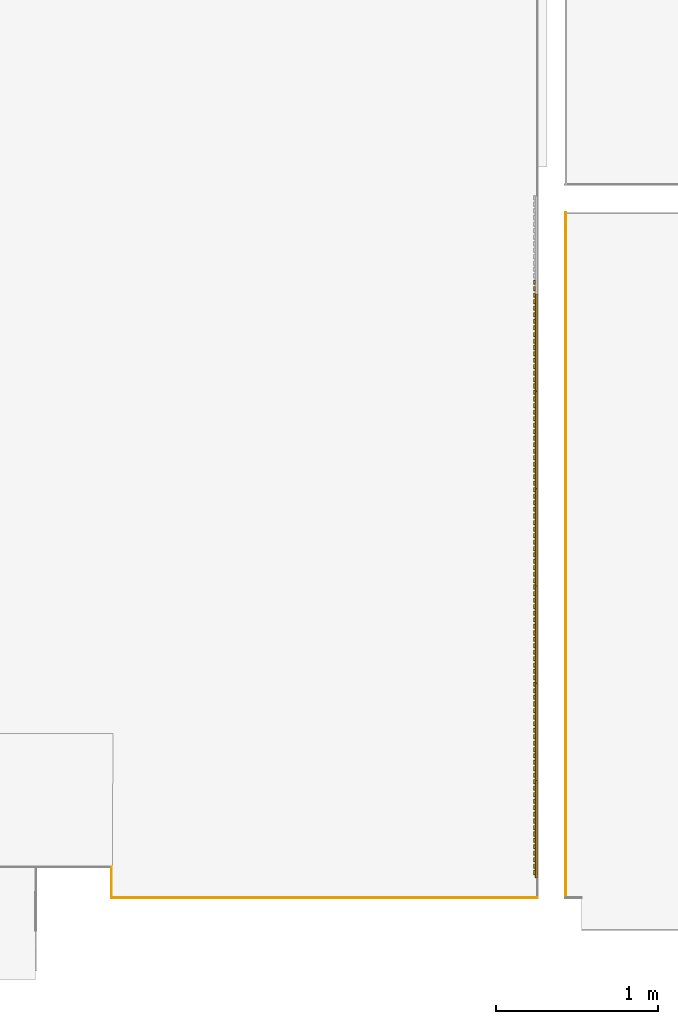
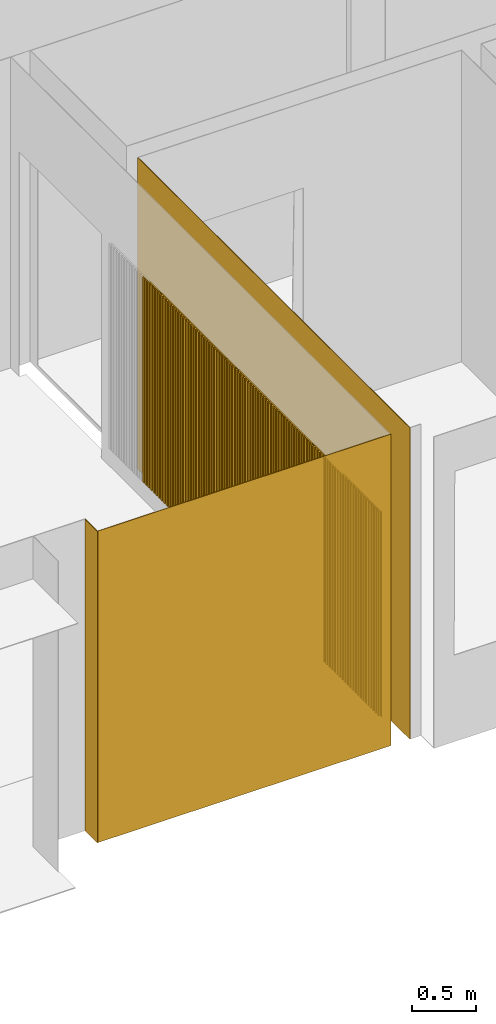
# One storey, part 3 of 33: 101 coverings.
"""IFC2X3 building model written with IfcOpenShell, lengths in millimetres."""

from ifc_helpers import new_model, entity, si_unit, converted_unit, derived_unit, money_unit, direction, frame, origin_with_axes, place, context, subcontext, project, spatial, polyline, outline, extrude, faceted_brep, source, transform, mapped, material, type_object, element, save


model = new_model("IFC2X3")

# Units and contexts
model_context = context("Model", 3, precision=0.01, world=origin_with_axes(), true_north=direction((0.0, 1.0)))
body_context = subcontext(model_context, "Body", "Model", "MODEL_VIEW")
ifc_project = project(units=[si_unit("LENGTHUNIT", "METRE", prefix="MILLI"), si_unit("AREAUNIT", "SQUARE_METRE"), si_unit("VOLUMEUNIT", "CUBIC_METRE"), converted_unit("PLANEANGLEUNIT", "DEGREE", entity("IfcPlaneAngleMeasure", 0.0174532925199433), si_unit("PLANEANGLEUNIT", "RADIAN"), dimensions=[0, 0, 0, 0, 0, 0, 0]), money_unit("EUR"), converted_unit("TIMEUNIT", "Year", entity("IfcTimeMeasure", 31556926.0), si_unit("TIMEUNIT", "SECOND"), dimensions=[0, 0, 1, 0, 0, 0, 0]), si_unit("MASSUNIT", "GRAM", prefix="KILO"), si_unit("THERMODYNAMICTEMPERATUREUNIT", "DEGREE_CELSIUS"), si_unit("LUMINOUSINTENSITYUNIT", "LUMEN"), si_unit("ENERGYUNIT", "JOULE", prefix="MEGA"), derived_unit("THERMALCONDUCTANCEUNIT", [(si_unit("POWERUNIT", "WATT"), 1), (si_unit("LENGTHUNIT", "METRE"), -1), (si_unit("THERMODYNAMICTEMPERATUREUNIT", "KELVIN"), -1)]), derived_unit("SPECIFICHEATCAPACITYUNIT", [(si_unit("ENERGYUNIT", "JOULE"), 1), (si_unit("MASSUNIT", "GRAM", prefix="KILO"), -1), (si_unit("THERMODYNAMICTEMPERATUREUNIT", "KELVIN"), -1)]), derived_unit("MASSDENSITYUNIT", [(si_unit("MASSUNIT", "GRAM", prefix="KILO"), 1), (si_unit("VOLUMEUNIT", "CUBIC_METRE"), -1)])], contexts=[model_context])

# Site, building, storey
site_placement = place(None, origin_with_axes())
site = spatial("IfcSite", under=ifc_project, at=site_placement, Name="Paldiski mnt 245/1, Tallinn, Harjumaa", CompositionType="COMPLEX")
building_placement = place(site_placement, origin_with_axes())
building = spatial("IfcBuilding", under=site, at=building_placement, Name="RKAS Hoone üldnimetus (kasutust iseloomustav) -> IFC Project Manager -> SOLIBRI", CompositionType="ELEMENT")
storey_placement = place(building_placement, origin_with_axes())
storey = spatial("IfcBuildingStorey", under=building, at=storey_placement, Name="Esimene korrus", CompositionType="ELEMENT", Elevation=0.0)

# Coverings
ifc_material_1 = material(Name="GENERIC - PREFABRICATED")
covering_type_1 = type_object("IfcCoveringType", Name="GENERIC - PREFABRICATED", PredefinedType="CLADDING")
shared_shape_1 = source(origin_with_axes(), body_context, "Body", "Brep", [
    faceted_brep([(0.0, 0.9999999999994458, 0.0), (0.0, -24.00000000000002, 0.0), (0.0, -24.00000000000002, 1940.0), (0.0, 0.9999999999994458, 1940.0), (12.00000000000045, 0.9999999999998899, 0.0), (12.00000000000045, -24.00000000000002, 0.0), (12.00000000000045, -24.00000000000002, 1940.0), (12.00000000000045, 0.9999999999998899, 1940.0)], [[[0, 1, 2, 3]], [[1, 0, 4, 5]], [[2, 1, 5, 6]], [[2, 6, 7, 3]], [[0, 3, 7, 4]], [[6, 5, 4, 7]]]),
])
for number, where, z_axis, x_axis, name in (
    (1, (-38627.00009801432, -8704.084747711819, 200.0), (0.0, 0.0, 1.0), (1.0, 0.0, 0.0), "SM1"),
    (2, (-38627.00009801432, -8744.584747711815, 200.0), (0.0, 0.0, 1.0), (1.0, 0.0, 0.0), "SM1"),
    (3, (-38627.00009801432, -8663.584747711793, 200.0), (0.0, 0.0, 1.0), (1.0, 0.0, 0.0), "SM1"),
    (4, (-38627.00009801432, -8623.084747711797, 200.0), (0.0, 0.0, 1.0), (1.0, 0.0, 0.0), "SM1"),
    (5, (-38627.00009801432, -8582.584747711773, 200.0), (0.0, 0.0, 1.0), (1.0, 0.0, 0.0), "SM1"),
    (6, (-38627.00009801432, -9702.584747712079, 200.0), (0.0, 0.0, 1.0), (1.0, 0.0, 0.0), "SM1"),
    (7, (-38627.00009801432, -9663.084747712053, 200.0), (0.0, 0.0, 1.0), (1.0, 0.0, 0.0), "SM1"),
    (8, (-38627.00009801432, -9623.584747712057, 200.0), (0.0, 0.0, 1.0), (1.0, 0.0, 0.0), "SM1"),
    (9, (-38627.00009801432, -9584.084747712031, 200.0), (0.0, 0.0, 1.0), (1.0, 0.0, 0.0), "SM1"),
    (10, (-38627.00009801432, -9544.584747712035, 200.0), (0.0, 0.0, 1.0), (1.0, 0.0, 0.0), "SM1"),
    (11, (-38627.00009801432, -9505.08474771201, 200.0), (0.0, 0.0, 1.0), (1.0, 0.0, 0.0), "SM1"),
    (12, (-38627.00009801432, -9425.084747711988, 200.0), (0.0, 0.0, 1.0), (1.0, 0.0, 0.0), "SM1"),
    (13, (-38627.00009801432, -9384.58474771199, 200.0), (0.0, 0.0, 1.0), (1.0, 0.0, 0.0), "SM1"),
    (14, (-38627.00009801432, -9465.584747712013, 200.0), (0.0, 0.0, 1.0), (1.0, 0.0, 0.0), "SM1"),
    (15, (-38627.00009801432, -9742.084747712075, 200.0), (0.0, 0.0, 1.0), (1.0, 0.0, 0.0), "SM1"),
    (16, (-38627.00009801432, -9344.084747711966, 200.0), (0.0, 0.0, 1.0), (1.0, 0.0, 0.0), "SM1"),
    (17, (-38627.00009801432, -9303.58474771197, 200.0), (0.0, 0.0, 1.0), (1.0, 0.0, 0.0), "SM1"),
    (18, (-38627.00009801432, -9263.084747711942, 200.0), (0.0, 0.0, 1.0), (1.0, 0.0, 0.0), "SM1"),
    (19, (-38627.00009801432, -9222.584747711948, 200.0), (0.0, 0.0, 1.0), (1.0, 0.0, 0.0), "SM1"),
    (20, (-38627.00009801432, -9182.084747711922, 200.0), (0.0, 0.0, 1.0), (1.0, 0.0, 0.0), "SM1"),
    (21, (-38627.00009801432, -10341.58474771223, 200.0), (0.0, 0.0, 1.0), (1.0, 0.0, 0.0), "SM1"),
    (22, (-38627.00009801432, -10262.5847477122, 200.0), (0.0, 0.0, 1.0), (1.0, 0.0, 0.0), "SM1"),
    (23, (-38627.00009801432, -10223.08474771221, 200.0), (0.0, 0.0, 1.0), (1.0, 0.0, 0.0), "SM1"),
    (24, (-38627.00009801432, -10183.58474771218, 200.0), (0.0, 0.0, 1.0), (1.0, 0.0, 0.0), "SM1"),
    (25, (-38627.00009801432, -10302.08474771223, 200.0), (0.0, 0.0, 1.0), (1.0, 0.0, 0.0), "SM1"),
    (26, (-38627.00009801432, -10144.08474771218, 200.0), (0.0, 0.0, 1.0), (1.0, 0.0, 0.0), "SM1"),
    (27, (-38627.00009801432, -10104.58474771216, 200.0), (0.0, 0.0, 1.0), (1.0, 0.0, 0.0), "SM1"),
    (28, (-38627.00009801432, -10024.58474771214, 200.0), (0.0, 0.0, 1.0), (1.0, 0.0, 0.0), "SM1"),
    (29, (-38627.00009801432, -9943.584747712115, 200.0), (0.0, 0.0, 1.0), (1.0, 0.0, 0.0), "SM1"),
    (30, (-38627.00009801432, -10065.08474771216, 200.0), (0.0, 0.0, 1.0), (1.0, 0.0, 0.0), "SM1"),
    (31, (-38627.00009801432, -9984.08474771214, 200.0), (0.0, 0.0, 1.0), (1.0, 0.0, 0.0), "SM1"),
    (32, (-38627.00009801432, -9903.084747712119, 200.0), (0.0, 0.0, 1.0), (1.0, 0.0, 0.0), "SM1"),
    (33, (-38627.00009801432, -9781.584747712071, 200.0), (0.0, 0.0, 1.0), (1.0, 0.0, 0.0), "SM1"),
    (34, (-38627.00009801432, -10941.08474771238, 200.0), (0.0, 0.0, 1.0), (1.0, 0.0, 0.0), "SM1"),
    (35, (-38627.00009801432, -9862.584747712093, 200.0), (0.0, 0.0, 1.0), (1.0, 0.0, 0.0), "SM1"),
    (36, (-38627.00009801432, -10901.58474771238, 200.0), (0.0, 0.0, 1.0), (1.0, 0.0, 0.0), "SM1"),
    (37, (-38627.00009801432, -9822.084747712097, 200.0), (0.0, 0.0, 1.0), (1.0, 0.0, 0.0), "SM1"),
    (38, (-38627.00009801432, -10862.08474771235, 200.0), (0.0, 0.0, 1.0), (1.0, 0.0, 0.0), "SM1"),
    (39, (-38627.00009801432, -10822.58474771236, 200.0), (0.0, 0.0, 1.0), (1.0, 0.0, 0.0), "SM1"),
    (40, (-38627.00009801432, -10783.08474771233, 200.0), (0.0, 0.0, 1.0), (1.0, 0.0, 0.0), "SM1"),
    (41, (-38627.00009801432, -10704.08474771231, 200.0), (0.0, 0.0, 1.0), (1.0, 0.0, 0.0), "SM1"),
    (42, (-38627.00009801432, -10624.08474771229, 200.0), (0.0, 0.0, 1.0), (1.0, 0.0, 0.0), "SM1"),
    (43, (-38627.00009801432, -10583.58474771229, 200.0), (0.0, 0.0, 1.0), (1.0, 0.0, 0.0), "SM1"),
    (44, (-38627.00009801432, -10543.08474771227, 200.0), (0.0, 0.0, 1.0), (1.0, 0.0, 0.0), "SM1"),
    (45, (-38627.00009801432, -10743.58474771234, 200.0), (0.0, 0.0, 1.0), (1.0, 0.0, 0.0), "SM1"),
    (46, (-38627.00009801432, -10502.58474771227, 200.0), (0.0, 0.0, 1.0), (1.0, 0.0, 0.0), "SM1"),
    (47, (-38627.00009801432, -10462.08474771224, 200.0), (0.0, 0.0, 1.0), (1.0, 0.0, 0.0), "SM1"),
    (48, (-38627.00009801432, -10421.58474771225, 200.0), (0.0, 0.0, 1.0), (1.0, 0.0, 0.0), "SM1"),
    (49, (-38627.00009801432, -11540.58474771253, 200.0), (0.0, 0.0, 1.0), (1.0, 0.0, 0.0), "SM1"),
    (50, (-38627.00009801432, -11501.08474771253, 200.0), (0.0, 0.0, 1.0), (1.0, 0.0, 0.0), "SM1"),
    (51, (-38627.00009801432, -11461.5847477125, 200.0), (0.0, 0.0, 1.0), (1.0, 0.0, 0.0), "SM1"),
    (52, (-38627.00009801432, -11422.08474771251, 200.0), (0.0, 0.0, 1.0), (1.0, 0.0, 0.0), "SM1"),
    (53, (-38627.00009801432, -11382.58474771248, 200.0), (0.0, 0.0, 1.0), (1.0, 0.0, 0.0), "SM1"),
    (54, (-38627.00009801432, -10381.08474771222, 200.0), (0.0, 0.0, 1.0), (1.0, 0.0, 0.0), "SM1"),
    (55, (-38627.00009801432, -11343.08474771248, 200.0), (0.0, 0.0, 1.0), (1.0, 0.0, 0.0), "SM1"),
    (56, (-38627.00009801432, -10664.58474771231, 200.0), (0.0, 0.0, 1.0), (1.0, 0.0, 0.0), "SM1"),
    (57, (-38627.00009801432, -11264.08474771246, 200.0), (0.0, 0.0, 1.0), (1.0, 0.0, 0.0), "SM1"),
    (58, (-38627.00009801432, -11223.58474771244, 200.0), (0.0, 0.0, 1.0), (1.0, 0.0, 0.0), "SM1"),
    (59, (-38627.00009801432, -11303.58474771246, 200.0), (0.0, 0.0, 1.0), (1.0, 0.0, 0.0), "SM1"),
    (60, (-38627.00009801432, -11183.08474771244, 200.0), (0.0, 0.0, 1.0), (1.0, 0.0, 0.0), "SM1"),
    (61, (-38627.00009801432, -11102.08474771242, 200.0), (0.0, 0.0, 1.0), (1.0, 0.0, 0.0), "SM1"),
    (62, (-38627.00009801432, -11061.58474771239, 200.0), (0.0, 0.0, 1.0), (1.0, 0.0, 0.0), "SM1"),
    (63, (-38627.00009801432, -11142.58474771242, 200.0), (0.0, 0.0, 1.0), (1.0, 0.0, 0.0), "SM1"),
    (64, (-38627.00009801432, -11021.0847477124, 200.0), (0.0, 0.0, 1.0), (1.0, 0.0, 0.0), "SM1"),
    (65, (-38627.00009801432, -10980.58474771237, 200.0), (0.0, 0.0, 1.0), (1.0, 0.0, 0.0), "SM1"),
    (66, (-38627.00009801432, -12140.08474771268, 200.0), (0.0, 0.0, 1.0), (1.0, 0.0, 0.0), "SM1"),
    (67, (-38627.00009801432, -12021.58474771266, 200.0), (0.0, 0.0, 1.0), (1.0, 0.0, 0.0), "SM1"),
    (68, (-38627.00009801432, -12100.58474771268, 200.0), (0.0, 0.0, 1.0), (1.0, 0.0, 0.0), "SM1"),
    (69, (-38627.00009801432, -11942.58474771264, 200.0), (0.0, 0.0, 1.0), (1.0, 0.0, 0.0), "SM1"),
    (70, (-38627.00009801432, -11903.08474771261, 200.0), (0.0, 0.0, 1.0), (1.0, 0.0, 0.0), "SM1"),
    (71, (-38627.00009801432, -11863.58474771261, 200.0), (0.0, 0.0, 1.0), (1.0, 0.0, 0.0), "SM1"),
    (72, (-38627.00009801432, -11982.08474771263, 200.0), (0.0, 0.0, 1.0), (1.0, 0.0, 0.0), "SM1"),
    (73, (-38627.00009801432, -11580.08474771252, 200.0), (0.0, 0.0, 1.0), (1.0, 0.0, 0.0), "SM1"),
    (74, (-38627.00009801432, -11620.58474771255, 200.0), (0.0, 0.0, 1.0), (1.0, 0.0, 0.0), "SM1"),
    (75, (-38627.00009801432, -9142.584747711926, 200.0), (0.0, 0.0, 1.0), (1.0, 0.0, 0.0), "SM1"),
    (76, (-38627.00009801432, -11742.08474771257, 200.0), (0.0, 0.0, 1.0), (1.0, 0.0, 0.0), "SM1"),
    (77, (-38627.00009801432, -11782.58474771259, 200.0), (0.0, 0.0, 1.0), (1.0, 0.0, 0.0), "SM1"),
    (78, (-38627.00009801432, -12061.08474771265, 200.0), (0.0, 0.0, 1.0), (1.0, 0.0, 0.0), "SM1"),
    (79, (-38627.00009801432, -11823.08474771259, 200.0), (0.0, 0.0, 1.0), (1.0, 0.0, 0.0), "SM1"),
    (80, (-38627.00009801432, -11701.58474771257, 200.0), (0.0, 0.0, 1.0), (1.0, 0.0, 0.0), "SM1"),
    (81, (-38627.00009801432, -11661.08474771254, 200.0), (0.0, 0.0, 1.0), (1.0, 0.0, 0.0), "SM1"),
    (82, (-38627.00009801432, -8503.584747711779, 200.0), (0.0, 0.0, 1.0), (1.0, 0.0, 0.0), "SM1"),
    (83, (-38627.00009801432, -8543.084747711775, 200.0), (0.0, 0.0, 1.0), (1.0, 0.0, 0.0), "SM1"),
    (84, (-38627.00009801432, -9103.08474771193, 200.0), (0.0, 0.0, 1.0), (1.0, 0.0, 0.0), "SM1"),
    (85, (-38627.00009801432, -8984.584747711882, 200.0), (0.0, 0.0, 1.0), (1.0, 0.0, 0.0), "SM1"),
    (86, (-38627.00009801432, -9024.084747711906, 200.0), (0.0, 0.0, 1.0), (1.0, 0.0, 0.0), "SM1"),
    (87, (-38627.00009801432, -8905.58474771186, 200.0), (0.0, 0.0, 1.0), (1.0, 0.0, 0.0), "SM1"),
    (88, (-38627.00009801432, -8866.084747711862, 200.0), (0.0, 0.0, 1.0), (1.0, 0.0, 0.0), "SM1"),
    (89, (-38627.00009801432, -8945.084747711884, 200.0), (0.0, 0.0, 1.0), (1.0, 0.0, 0.0), "SM1"),
    (90, (-38627.00009801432, -8825.584747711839, 200.0), (0.0, 0.0, 1.0), (1.0, 0.0, 0.0), "SM1"),
    (91, (-38627.00009801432, -8785.08474771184, 200.0), (0.0, 0.0, 1.0), (1.0, 0.0, 0.0), "SM1"),
    (92, (-38627.00009801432, -9063.584747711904, 200.0), (0.0, 0.0, 1.0), (1.0, 0.0, 0.0), "SM1"),
):
    element("IfcCovering", number, at=place(storey_placement, frame(where, z_axis=z_axis, x_axis=x_axis)), inside=storey, type_object=covering_type_1, material=ifc_material_1, Name=name, PredefinedType="CLADDING", context=body_context, shape_type="MappedRepresentation", body=[
        mapped(shared_shape_1, transform((0.0, 0.0, 0.0))),
    ])
ifc_material_2 = material(Name="SA- Puitribi SM1(puitribi)")
covering_type_2 = type_object("IfcCoveringType", Name="SA- Puitribi SM1(puitribi)", PredefinedType="CLADDING")
shared_shape_2 = source(origin_with_axes(), body_context, "Body", "Brep", [
    faceted_brep([(-38615.00009801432, -8614.404340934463, 2090.0), (-38615.00009801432, -8014.904340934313, 2090.0), (-38615.00009801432, -8014.904340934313, 149.9999999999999), (-38615.00009801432, -8614.404340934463, 149.9999999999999), (-38605.00009801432, -8614.404340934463, 2090.0), (-38605.00009801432, -8014.904340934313, 2090.0), (-38605.00009801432, -8014.904340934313, 149.9999999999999), (-38605.00009801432, -8614.404340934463, 149.9999999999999)], [[[0, 1, 2, 3]], [[1, 0, 4, 5]], [[2, 1, 5, 6]], [[3, 2, 6, 7]], [[4, 0, 3, 7]], [[5, 4, 7, 6]]]),
])
for number, where, z_axis, x_axis, name in (
    (93, (0.0, -1172.000000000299, 50.0000000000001), (0.0, 0.0, 1.0), (1.0, 0.0, 0.0), "SM1"),
    (94, (0.0, -1771.500000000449, 50.0000000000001), (0.0, 0.0, 1.0), (1.0, 0.0, 0.0), "SM1"),
    (95, (0.0, -2371.000000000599, 50.0000000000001), (0.0, 0.0, 1.0), (1.0, 0.0, 0.0), "SM1"),
    (96, (0.0, -2970.500000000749, 50.0000000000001), (0.0, 0.0, 1.0), (1.0, 0.0, 0.0), "SM1"),
    (97, (0.0, -3570.000000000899, 50.0000000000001), (0.0, 0.0, 1.0), (1.0, 0.0, 0.0), "SM1"),
    (98, (0.0, -572.500000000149, 50.0000000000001), (0.0, 0.0, 1.0), (1.0, 0.0, 0.0), "SM1"),
):
    element("IfcCovering", number, at=place(storey_placement, frame(where, z_axis=z_axis, x_axis=x_axis)), inside=storey, type_object=covering_type_2, material=ifc_material_2, Name=name, PredefinedType="CLADDING", context=body_context, shape_type="MappedRepresentation", body=[
        mapped(shared_shape_2, transform((0.0, 0.0, 0.0))),
    ])
ifc_material_3 = material(Name="SA- Värv SM10(tumehall)")
covering_type_3 = type_object("IfcCoveringType", Name="SA- Värv SM10(tumehall) 5", PredefinedType="CLADDING")
covering_1_placement = place(storey_placement, frame((-41229.99999115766, -12310.08407942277, 0.0), z_axis=(0.0, 0.0, 1.0), x_axis=(9.641851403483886e-05, 0.9999999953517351, 0.0)))
element("IfcCovering", 99, at=covering_1_placement, inside=storey, type_object=covering_type_3, material=ifc_material_3, Name="SM10", PredefinedType="CLADDING", context=body_context, shape_type="SweptSolid", body=[
    extrude(outline(polyline([(0.000474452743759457, -5.000000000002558), (194.8972586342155, -5.000000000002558), (189.8993101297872, 0.0), (-7.639828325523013e-06, 0.0), (0.000474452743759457, -5.000000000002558)])), origin_with_axes(), (0.0, 0.0, 1.0), 2950.0),
])
ifc_material_4 = material(Name="SA- Värv SM5(valge)")
covering_type_4 = type_object("IfcCoveringType", Name="SA- Värv SM5(valge) 5", PredefinedType="CLADDING")
covering_2_placement = place(storey_placement, frame((-38430.00008940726, -8084.999999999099, 0.0), z_axis=(0.0, 0.0, 1.0), x_axis=(-9.895816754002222e-09, -1.0, 0.0)))
element("IfcCovering", 100, at=covering_2_placement, inside=storey, type_object=covering_type_4, material=ifc_material_4, Name="SM5", PredefinedType="CLADDING", context=body_context, shape_type="SweptSolid", body=[
    extrude(outline(polyline([(0.0, 0.0), (4225.084087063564, 0.0), (4225.084087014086, 5.000000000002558), (-4.947864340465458e-08, 5.000000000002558), (0.0, 0.0)])), origin_with_axes(), (0.0, 0.0, 1.0), 2950.0),
])
covering_3_placement = place(storey_placement, frame((-38600.00009841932, -12310.08409804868, 0.0), z_axis=(0.0, 0.0, 1.0), x_axis=(-1.0, 7.082095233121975e-09, 0.0)))
element("IfcCovering", 101, at=covering_3_placement, inside=storey, type_object=covering_type_4, material=ifc_material_4, Name="SM5", PredefinedType="CLADDING", context=body_context, shape_type="SweptSolid", body=[
    extrude(outline(polyline([(-8.976563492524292e-06, -5.000000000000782), (2629.999946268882, -4.999999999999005), (2629.99994767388, 0.0), (-9.011969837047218e-06, 0.0), (-8.976563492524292e-06, -5.000000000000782)])), origin_with_axes(), (0.0, 0.0, 1.0), 2950.0),
])

save(model, "model.ifc")
